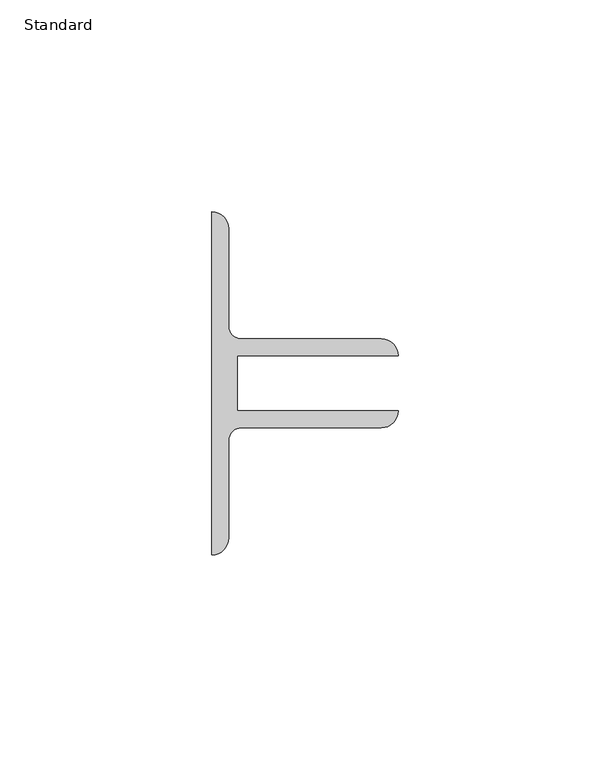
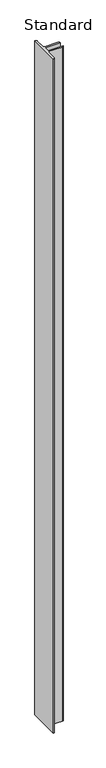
"""IFC4 building model written with IfcOpenShell, lengths in millimetres: furniture geometry, X_Partition-Channel-Duracube-Urinal Divider : Standard."""

from ifc_helpers import new_model, si_unit, point, frame, frame_2d, origin, place, context, project, spatial, polyline, circle_curve, trimmed, segment, composite_curve, outline, extrude, source, transform, mapped, element, save


def standard_e7b9e4ba(model_context):
    return source(origin(), model_context, "Body", "SweptSolid", [
        extrude(outline(composite_curve([segment(polyline([(28.7003264, 0.0), (28.7003264, -13.0), (66.7003264, -13.0)]), True, "CONTINUOUS"), segment(trimmed(circle_curve(frame_2d((62.7003264, -13.0)), 4.0), [point((66.7003264, -13.0))], [point((62.7003264, -17.0))], False, "CARTESIAN"), True, "CONTINUOUS"), segment(polyline([(62.7003264, -17.0), (29.7003264, -17.0)]), True, "CONTINUOUS"), segment(trimmed(circle_curve(frame_2d((29.7003264, -20.0)), 3.0), [point((29.7003264, -17.0))], [point((26.7003264, -20.0))], True, "CARTESIAN"), True, "CONTINUOUS"), segment(polyline([(26.7003264, -20.0), (26.7003264, -43.0)]), True, "CONTINUOUS"), segment(trimmed(circle_curve(frame_2d((22.7003264, -43.0)), 4.0), [point((26.7003264, -43.0))], [point((22.7003264, -47.0))], False, "CARTESIAN"), True, "CONTINUOUS"), segment(polyline([(22.7003264, -47.0), (22.7003264, 34.0)]), True, "CONTINUOUS"), segment(trimmed(circle_curve(frame_2d((22.7003264, 30.0)), 4.0), [point((22.7003264, 34.0))], [point((26.7003264, 30.0))], False, "CARTESIAN"), True, "CONTINUOUS"), segment(polyline([(26.7003264, 30.0), (26.7003264, 7.0)]), True, "CONTINUOUS"), segment(trimmed(circle_curve(frame_2d((29.7003264, 7.0)), 3.0), [point((26.7003264, 7.0))], [point((29.7003264, 4.0))], True, "CARTESIAN"), True, "CONTINUOUS"), segment(polyline([(29.7003264, 4.0), (62.7003264, 4.0)]), True, "CONTINUOUS"), segment(trimmed(circle_curve(frame_2d((62.7003264, 0.0)), 4.0), [point((62.7003264, 4.0))], [point((66.7003264, 0.0))], False, "CARTESIAN"), True, "CONTINUOUS"), segment(polyline([(66.7003264, 0.0), (28.7003264, 0.0)]), True, "CONTINUOUS")], self_intersect=False)), frame((0.0, 0.0, 200.0), z_axis=(0.0, 0.0, 1.0), x_axis=(1.0, 0.0, 0.0)), (0.0, 0.0, 1.0), 1800.0),
    ])


if __name__ == "__main__":
    model = new_model("IFC4")
    model_context = context("Model", 3, world=origin())
    ifc_project = project(units=[si_unit("LENGTHUNIT", "METRE", prefix="MILLI")], contexts=[model_context])
    site = spatial("IfcSite", under=ifc_project)
    building = spatial("IfcBuilding", under=site)
    placement = place(None, origin())
    standard_shape = standard_e7b9e4ba(model_context)
    element("IfcFurniture", 1, ObjectType="X_Partition-Channel-Duracube-Urinal Divider : Standard", at=placement, inside=building, context=model_context, shape_type="MappedRepresentation", body=[
        mapped(standard_shape, transform((0.0, 0.0, 0.0), x_axis=(1.0, 0.0, 0.0), y_axis=(0.0, 1.0, 0.0), z_axis=(0.0, 0.0, 1.0))),
    ])
    save(model, "model.ifc")
